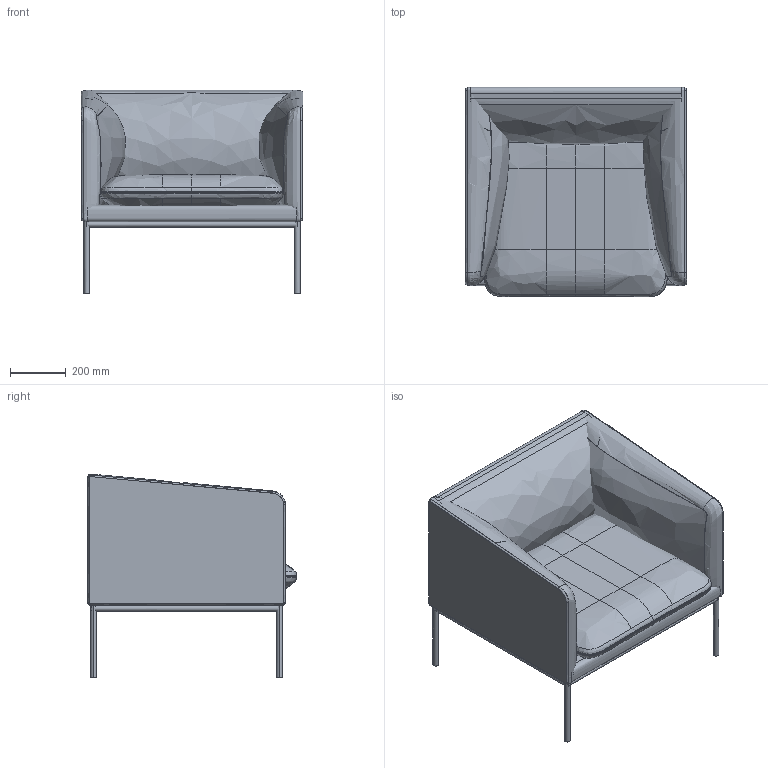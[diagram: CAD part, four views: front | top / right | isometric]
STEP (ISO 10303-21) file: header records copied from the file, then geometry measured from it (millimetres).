
FILE_DESCRIPTION(/* description */ (''),/* implementation_level */ '2;1');
FILE_NAME(/* name */ 'Turn 1-seater_3D',/* time_stamp */ '2021-05-03T14:15:07+02:00',/* author */ (''),/* organization */ (''),/* preprocessor_version */ 'ST-DEVELOPER v16.5',/* originating_system */ '',/* authorisation */ '');
FILE_SCHEMA (('CONFIG_CONTROL_DESIGN'));
Length unit declared in the file: millimetre
Products named in the file (1): Document
Bounding box: 798.26 x 755.9 x 733.69 mm (x, y, z)
Volume: 100422169.7 mm3; surface area: 6741782.7 mm2
Topology: 13 solids, 21 shells, 142 faces, 322 edges, 214 vertices
Faces by surface type: bspline 96, plane 30, cylinder 16
Entity records: 25952 total; most frequent: CARTESIAN_POINT 23769, ORIENTED_EDGE 594, EDGE_CURVE 315, B_SPLINE_CURVE_WITH_KNOTS 266, VERTEX_POINT 206, ADVANCED_FACE 142, FACE_OUTER_BOUND 142, EDGE_LOOP 142
